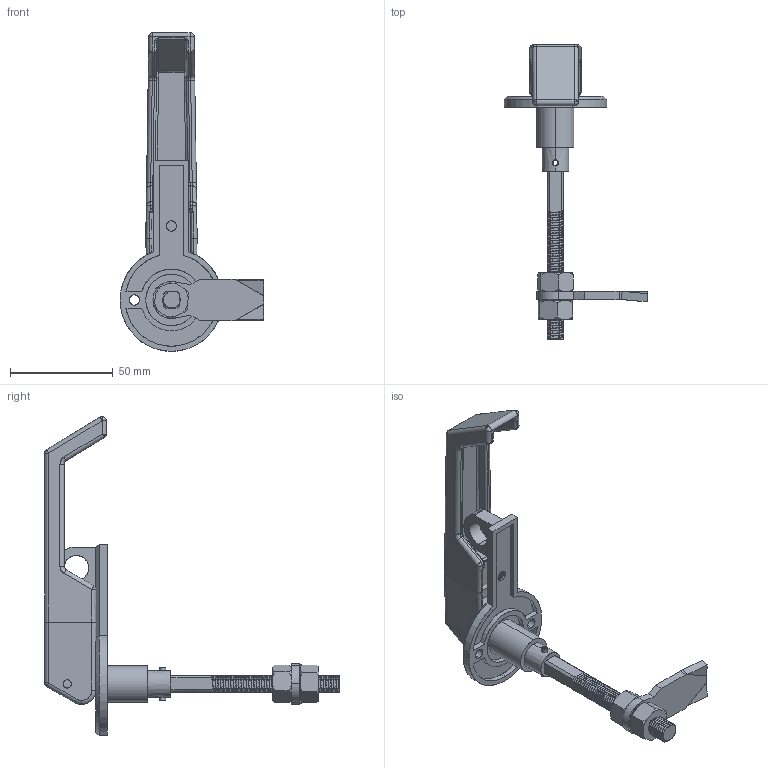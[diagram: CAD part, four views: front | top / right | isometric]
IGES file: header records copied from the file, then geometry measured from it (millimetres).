
Start section: SolidWorks IGES file using analytic representation for surfaces
Global section: file name: D:\尚坤工业图纸\SK1--门锁系列\SK1-096\SK1-096.IGS; native system: SolidWorks 2015; preprocessor: SolidWorks 2015; author: admin; date: 181101.105413; units: millimetre
Bounding box: 70 x 143.5 x 155.06 mm (x, y, z)
Surface area: 37030.3 mm2 (no closed solid volume)
Topology: 0 solids, 0 shells, 825 faces, 12035 edges, 12021 vertices
Faces by surface type: revolution 424, bspline 401
